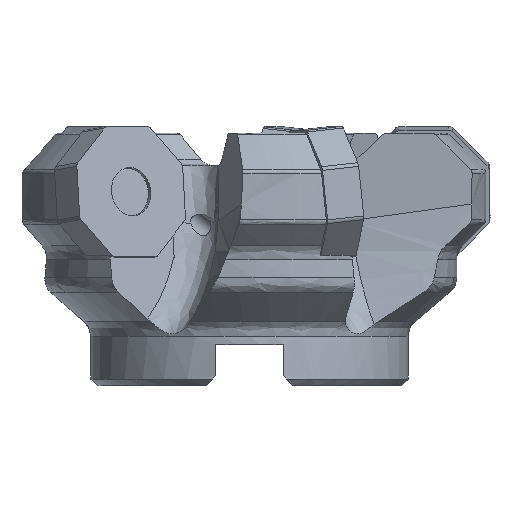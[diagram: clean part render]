
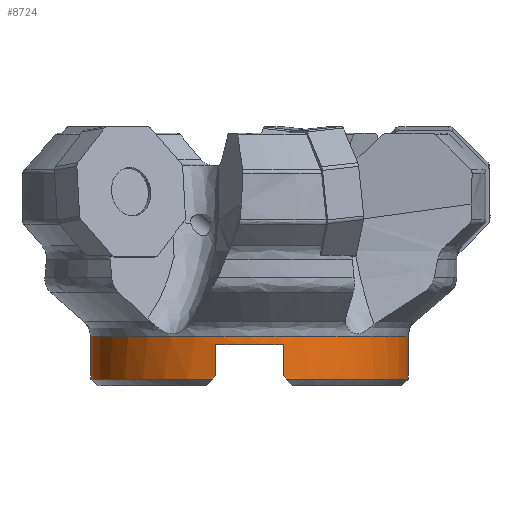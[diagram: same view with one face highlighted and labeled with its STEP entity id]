
A CAD part, front view. The second image highlights one B-rep face of the part: STEP entity #8724.
In plain terms, the highlighted cylindrical face has radius 24.5 mm (diameter 49 mm), a partial arc.
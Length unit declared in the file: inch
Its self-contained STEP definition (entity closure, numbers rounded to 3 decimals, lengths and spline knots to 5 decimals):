
#33 = LINE ( 'NONE', #2450, #5107 ) ;
#722 = AXIS2_PLACEMENT_3D ( 'NONE', #3734, #10205, #2870 ) ;
#970 = CARTESIAN_POINT ( 'NONE',  ( 0., 0., 0.24803 ) ) ;
#1025 =( BOUNDED_CURVE ( )  B_SPLINE_CURVE ( 3, ( #7978, #5452, #10378, #8723 ),
 .UNSPECIFIED., .F., .T. ) 
 B_SPLINE_CURVE_WITH_KNOTS ( ( 4, 4 ),
 ( 4.47758, 4.49852 ),
 .UNSPECIFIED. ) 
 CURVE ( )  GEOMETRIC_REPRESENTATION_ITEM ( )  RATIONAL_B_SPLINE_CURVE ( ( 1., 1., 1., 1. ) ) 
 REPRESENTATION_ITEM ( '' )  );
#1172 = VERTEX_POINT ( 'NONE', #9034 ) ;
#1242 = AXIS2_PLACEMENT_3D ( 'NONE', #3389, #7662, #9866 ) ;
#1306 = VECTOR ( 'NONE', #10579, 39.37008 ) ;
#1330 = CARTESIAN_POINT ( 'NONE',  ( 0.2113, -0.94116, 0.05248 ) ) ;
#1650 = CARTESIAN_POINT ( 'NONE',  ( -0.96457, 0., 0.03937 ) ) ;
#1676 = VECTOR ( 'NONE', #6033, 39.37008 ) ;
#2096 = CARTESIAN_POINT ( 'NONE',  ( 0., 0., 0.03937 ) ) ;
#2156 = ORIENTED_EDGE ( 'NONE', *, *, #2233, .F. ) ;
#2189 = EDGE_CURVE ( 'NONE', #4736, #3470, #1025, .T. ) ;
#2233 = EDGE_CURVE ( 'NONE', #8167, #3331, #33, .T. ) ;
#2336 = EDGE_CURVE ( 'NONE', #8371, #9175, #4060, .T. ) ;
#2349 = ORIENTED_EDGE ( 'NONE', *, *, #10501, .T. ) ;
#2450 = CARTESIAN_POINT ( 'NONE',  ( -0.96457, 0., 1.57492 ) ) ;
#2786 = ORIENTED_EDGE ( 'NONE', *, *, #2336, .T. ) ;
#2817 = CARTESIAN_POINT ( 'NONE',  ( 0.96457, 0., 0.03937 ) ) ;
#2870 = DIRECTION ( 'NONE',  ( 1., 0., 0. ) ) ;
#2972 = DIRECTION ( 'NONE',  ( 0., 0., 1. ) ) ;
#3331 = VERTEX_POINT ( 'NONE', #6382 ) ;
#3389 = CARTESIAN_POINT ( 'NONE',  ( 0., 0., 1.57492 ) ) ;
#3470 = VERTEX_POINT ( 'NONE', #9945 ) ;
#3547 = DIRECTION ( 'NONE',  ( 0., 0., -1. ) ) ;
#3734 = CARTESIAN_POINT ( 'NONE',  ( 0., 0., 0.29926 ) ) ;
#3834 = CARTESIAN_POINT ( 'NONE',  ( 0.20472, -0.94259, 0.24803 ) ) ;
#4031 = LINE ( 'NONE', #3834, #4799 ) ;
#4060 = LINE ( 'NONE', #7323, #1306 ) ;
#4242 = AXIS2_PLACEMENT_3D ( 'NONE', #970, #3547, #5798 ) ;
#4736 = VERTEX_POINT ( 'NONE', #9323 ) ;
#4799 = VECTOR ( 'NONE', #2972, 39.37008 ) ;
#4951 = CARTESIAN_POINT ( 'NONE',  ( 0., 0., 0.03937 ) ) ;
#5014 = AXIS2_PLACEMENT_3D ( 'NONE', #2096, #7795, #8590 ) ;
#5107 = VECTOR ( 'NONE', #8083, 39.37008 ) ;
#5121 = CARTESIAN_POINT ( 'NONE',  ( 0.96457, 0., 0.29926 ) ) ;
#5173 = CIRCLE ( 'NONE', #5014, 0.96457 ) ;
#5182 = CARTESIAN_POINT ( 'NONE',  ( 0.20472, -0.94259, 0.05906 ) ) ;
#5203 = CARTESIAN_POINT ( 'NONE',  ( 0.22441, -0.9381, 0.03937 ) ) ;
#5210 = ORIENTED_EDGE ( 'NONE', *, *, #7309, .F. ) ;
#5226 = VERTEX_POINT ( 'NONE', #5203 ) ;
#5275 = CARTESIAN_POINT ( 'NONE',  ( -0.20472, -0.94259, 0. ) ) ;
#5452 = CARTESIAN_POINT ( 'NONE',  ( -0.21786, -0.93966, 0.04592 ) ) ;
#5520 = AXIS2_PLACEMENT_3D ( 'NONE', #4951, #5702, #5862 ) ;
#5623 = CARTESIAN_POINT ( 'NONE',  ( -0.20472, -0.94259, 0.24803 ) ) ;
#5702 = DIRECTION ( 'NONE',  ( 0., 0., 1. ) ) ;
#5798 = DIRECTION ( 'NONE',  ( 1., 0., 0. ) ) ;
#5862 = DIRECTION ( 'NONE',  ( 1., 0., 0. ) ) ;
#5869 = CIRCLE ( 'NONE', #5520, 0.96457 ) ;
#5923 = EDGE_LOOP ( 'NONE', ( #2156, #8953, #10519, #5210, #9951, #8476, #6305, #7383, #2786, #2349 ) ) ;
#6005 = FACE_OUTER_BOUND ( 'NONE', #5923, .T. ) ;
#6033 = DIRECTION ( 'NONE',  ( 0., 0., -1. ) ) ;
#6091 = CARTESIAN_POINT ( 'NONE',  ( 0.20472, -0.94259, 0.24803 ) ) ;
#6181 = EDGE_CURVE ( 'NONE', #5226, #8371, #5173, .T. ) ;
#6305 = ORIENTED_EDGE ( 'NONE', *, *, #6991, .T. ) ;
#6382 = CARTESIAN_POINT ( 'NONE',  ( -0.96457, 0., 0.29926 ) ) ;
#6463 = EDGE_CURVE ( 'NONE', #7364, #6760, #6798, .T. ) ;
#6760 = VERTEX_POINT ( 'NONE', #5623 ) ;
#6798 = CIRCLE ( 'NONE', #4242, 0.96457 ) ;
#6991 = EDGE_CURVE ( 'NONE', #1172, #5226, #7421, .T. ) ;
#7223 = CIRCLE ( 'NONE', #722, 0.96457 ) ;
#7309 = EDGE_CURVE ( 'NONE', #6760, #3470, #7583, .T. ) ;
#7323 = CARTESIAN_POINT ( 'NONE',  ( 0.96457, 0., 1.57492 ) ) ;
#7364 = VERTEX_POINT ( 'NONE', #6091 ) ;
#7383 = ORIENTED_EDGE ( 'NONE', *, *, #6181, .T. ) ;
#7421 =( BOUNDED_CURVE ( )  B_SPLINE_CURVE ( 3, ( #5182, #1330, #8458, #8569 ),
 .UNSPECIFIED., .F., .T. ) 
 B_SPLINE_CURVE_WITH_KNOTS ( ( 4, 4 ),
 ( 1.78467, 1.8056 ),
 .UNSPECIFIED. ) 
 CURVE ( )  GEOMETRIC_REPRESENTATION_ITEM ( )  RATIONAL_B_SPLINE_CURVE ( ( 1., 1., 1., 1. ) ) 
 REPRESENTATION_ITEM ( '' )  );
#7583 = LINE ( 'NONE', #5275, #1676 ) ;
#7662 = DIRECTION ( 'NONE',  ( 0., 0., 1. ) ) ;
#7795 = DIRECTION ( 'NONE',  ( 0., 0., 1. ) ) ;
#7831 = EDGE_CURVE ( 'NONE', #1172, #7364, #4031, .T. ) ;
#7978 = CARTESIAN_POINT ( 'NONE',  ( -0.22441, -0.9381, 0.03937 ) ) ;
#8083 = DIRECTION ( 'NONE',  ( 0., 0., 1. ) ) ;
#8167 = VERTEX_POINT ( 'NONE', #1650 ) ;
#8371 = VERTEX_POINT ( 'NONE', #2817 ) ;
#8458 = CARTESIAN_POINT ( 'NONE',  ( 0.21786, -0.93966, 0.04592 ) ) ;
#8476 = ORIENTED_EDGE ( 'NONE', *, *, #7831, .F. ) ;
#8569 = CARTESIAN_POINT ( 'NONE',  ( 0.22441, -0.9381, 0.03937 ) ) ;
#8590 = DIRECTION ( 'NONE',  ( 1., 0., 0. ) ) ;
#8723 = CARTESIAN_POINT ( 'NONE',  ( -0.20472, -0.94259, 0.05906 ) ) ;
#8724 = ADVANCED_FACE ( 'NONE', ( #6005 ), #9275, .T. ) ;
#8953 = ORIENTED_EDGE ( 'NONE', *, *, #9777, .T. ) ;
#9034 = CARTESIAN_POINT ( 'NONE',  ( 0.20472, -0.94259, 0.05906 ) ) ;
#9175 = VERTEX_POINT ( 'NONE', #5121 ) ;
#9275 = CYLINDRICAL_SURFACE ( 'NONE', #1242, 0.96457 ) ;
#9323 = CARTESIAN_POINT ( 'NONE',  ( -0.22441, -0.9381, 0.03937 ) ) ;
#9777 = EDGE_CURVE ( 'NONE', #8167, #4736, #5869, .T. ) ;
#9866 = DIRECTION ( 'NONE',  ( 1., 0., 0. ) ) ;
#9945 = CARTESIAN_POINT ( 'NONE',  ( -0.20472, -0.94259, 0.05906 ) ) ;
#9951 = ORIENTED_EDGE ( 'NONE', *, *, #6463, .F. ) ;
#10205 = DIRECTION ( 'NONE',  ( 0., 0., -1. ) ) ;
#10378 = CARTESIAN_POINT ( 'NONE',  ( -0.2113, -0.94116, 0.05248 ) ) ;
#10501 = EDGE_CURVE ( 'NONE', #9175, #3331, #7223, .T. ) ;
#10519 = ORIENTED_EDGE ( 'NONE', *, *, #2189, .T. ) ;
#10579 = DIRECTION ( 'NONE',  ( 0., 0., 1. ) ) ;
